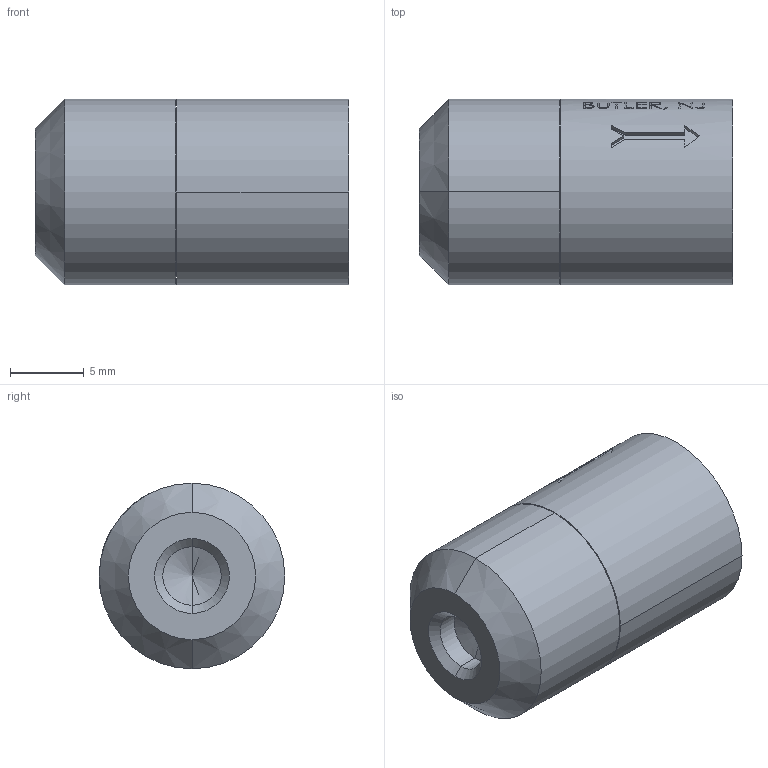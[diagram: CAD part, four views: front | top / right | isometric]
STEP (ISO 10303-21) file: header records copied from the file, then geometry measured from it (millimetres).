
FILE_DESCRIPTION (( 'STEP AP203' ), '1' );
FILE_NAME ('CCV-500.STEP', '2020-06-29T13:44:07', ( '' ), ( '' ), 'SwSTEP 2.0', 'SolidWorks 2011', '' );
FILE_SCHEMA (( 'CONFIG_CONTROL_DESIGN' ));
Length unit declared in the file: inch
Products named in the file (2): CCV-500; Part4^CCV-500_CM
Assembly tree (1 placements, depth 2):
  CCV-500
    Part4^CCV-500_CM
Bounding box: 21.26 x 12.6 x 12.6 mm (x, y, z)
Volume: 2510.6 mm3; surface area: 1180.9 mm2
Topology: 1 solids, 1 shells, 252 faces, 689 edges, 454 vertices
Faces by surface type: plane 134, bspline 70, cylinder 38, cone 10
Entity records: 11452 total; most frequent: CARTESIAN_POINT 5430, ORIENTED_EDGE 1370, DIRECTION 969, EDGE_CURVE 685, VERTEX_POINT 454, AXIS2_PLACEMENT_3D 348, LINE 273, VECTOR 273
